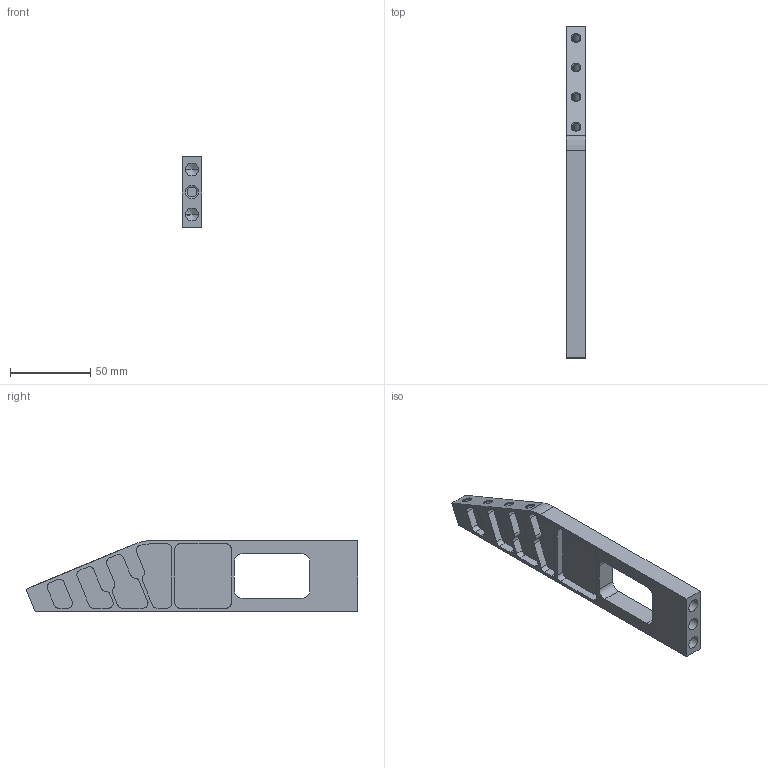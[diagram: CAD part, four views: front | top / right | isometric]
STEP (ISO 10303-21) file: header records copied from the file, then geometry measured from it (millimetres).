
FILE_DESCRIPTION(/* description */ ('(C) Elphel, Inc. 2026. Licensed under CERN OHL v.1.1 or later, see http://ohwr.org/cernohl'),/* implementation_level */ '2;1');
FILE_NAME(/* name */ '0393-18-83.stp',/* time_stamp */ '2026-08-12T11:02:57-07:00',/* author */ (''),/* organization */ ('Elphel, Inc'),/* preprocessor_version */ 'VariCAD 2020-1.02',/* originating_system */ 'VariCAD 2020-1.02; kernel version (20180118)',/* authorisation */ '');
FILE_SCHEMA(('AUTOMOTIVE_DESIGN'));
Length unit declared in the file: millimetre
Products named in the file (2): 0393-18-83
Assembly tree (1 placements, depth 2):
  0393-18-83
    0393-18-83
Bounding box: 12 x 206.77 x 44 mm (x, y, z)
Volume: 43580.3 mm3; surface area: 28548.4 mm2
Topology: 1 solids, 1 shells, 172 faces, 452 edges, 294 vertices
Faces by surface type: cylinder 85, plane 73, cone 14
Entity records: 5548 total; most frequent: CARTESIAN_POINT 986, DIRECTION 962, ORIENTED_EDGE 896, EDGE_CURVE 448, AXIS2_PLACEMENT_3D 346, VERTEX_POINT 294, LINE 270, VECTOR 270
